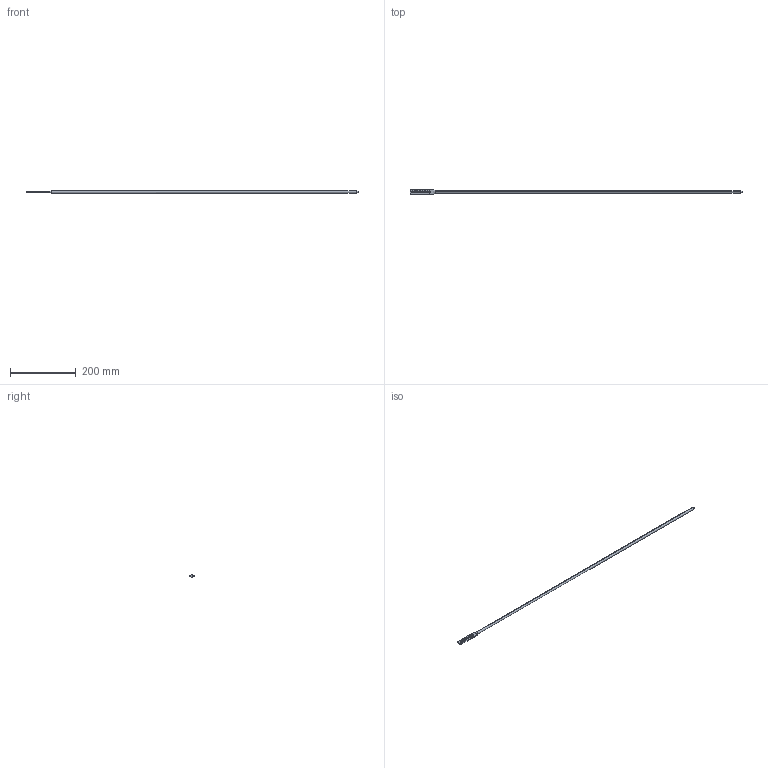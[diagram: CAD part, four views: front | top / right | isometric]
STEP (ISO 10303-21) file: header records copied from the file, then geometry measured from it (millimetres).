
FILE_DESCRIPTION (( 'STEP AP214' ), '1' );
FILE_NAME ('PR28L.STEP', '2016-08-18T06:14:20', ( 'RST-Dolba' ), ( '' ), 'SwSTEP 2.0', 'SolidWorks 2015', '' );
FILE_SCHEMA (( 'AUTOMOTIVE_DESIGN' ));
Length unit declared in the file: millimetre
Products named in the file (1): PR28L
Bounding box: 1008 x 14 x 8 mm (x, y, z)
Volume: 49398.9 mm3; surface area: 25959.5 mm2
Topology: 1 solids, 1 shells, 35 faces, 93 edges, 60 vertices
Faces by surface type: cylinder 23, plane 6, bspline 4, cone 2
Entity records: 1229 total; most frequent: CARTESIAN_POINT 281, DIRECTION 209, ORIENTED_EDGE 186, EDGE_CURVE 93, AXIS2_PLACEMENT_3D 84, VERTEX_POINT 60, CIRCLE 52, VECTOR 41
